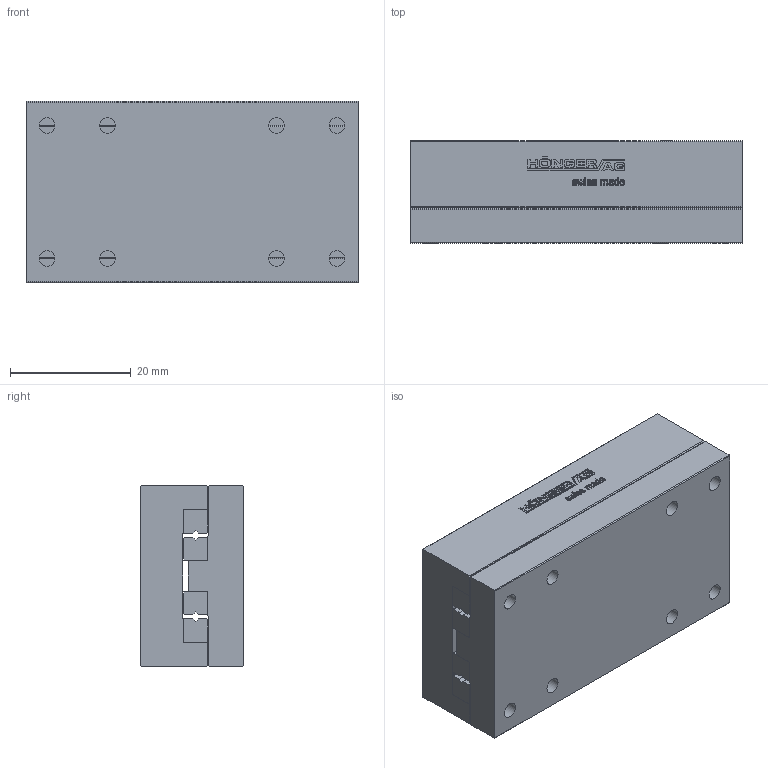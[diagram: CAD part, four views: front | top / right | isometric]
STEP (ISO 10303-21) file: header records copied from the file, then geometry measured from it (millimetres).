
FILE_DESCRIPTION(/* description */ ('STEP AP214'),/* implementation_level */ '2;1');
FILE_NAME(/* name */ 'NK 1-55-B(0)',/* time_stamp */ '2025-04-22T17:46:54+02:00',/* author */ ('License CC BY-ND 4.0'),/* organization */ ('CADENAS'),/* preprocessor_version */ 'ST-DEVELOPER v19.3',/* originating_system */ 'PARTsolutions',/* authorisation */ ' ');
FILE_SCHEMA (('AUTOMOTIVE_DESIGN {1 0 10303 214 3 1 1}'));
Length unit declared in the file: millimetre
Products named in the file (3): NK 1-55-B(0); NK 1-55-B_1; NK 1-55-B_2
Assembly tree (2 placements, depth 2):
  NK 1-55-B(0)
    NK 1-55-B_1
    NK 1-55-B_2
Bounding box: 55 x 17 x 30 mm (x, y, z)
Volume: 26731 mm3; surface area: 12838.3 mm2
Topology: 2 solids, 2 shells, 621 faces, 1702 edges, 1124 vertices
Faces by surface type: cylinder 316, plane 289, cone 16
Full cylindrical faces by diameter (mm): 1.567 x8, 2.6 x8, 4.1 x8
Entity records: 19807 total; most frequent: DIRECTION 3558, CARTESIAN_POINT 3410, ORIENTED_EDGE 3324, EDGE_CURVE 1662, AXIS2_PLACEMENT_3D 1272, VERTEX_POINT 1124, LINE 1014, VECTOR 1014
